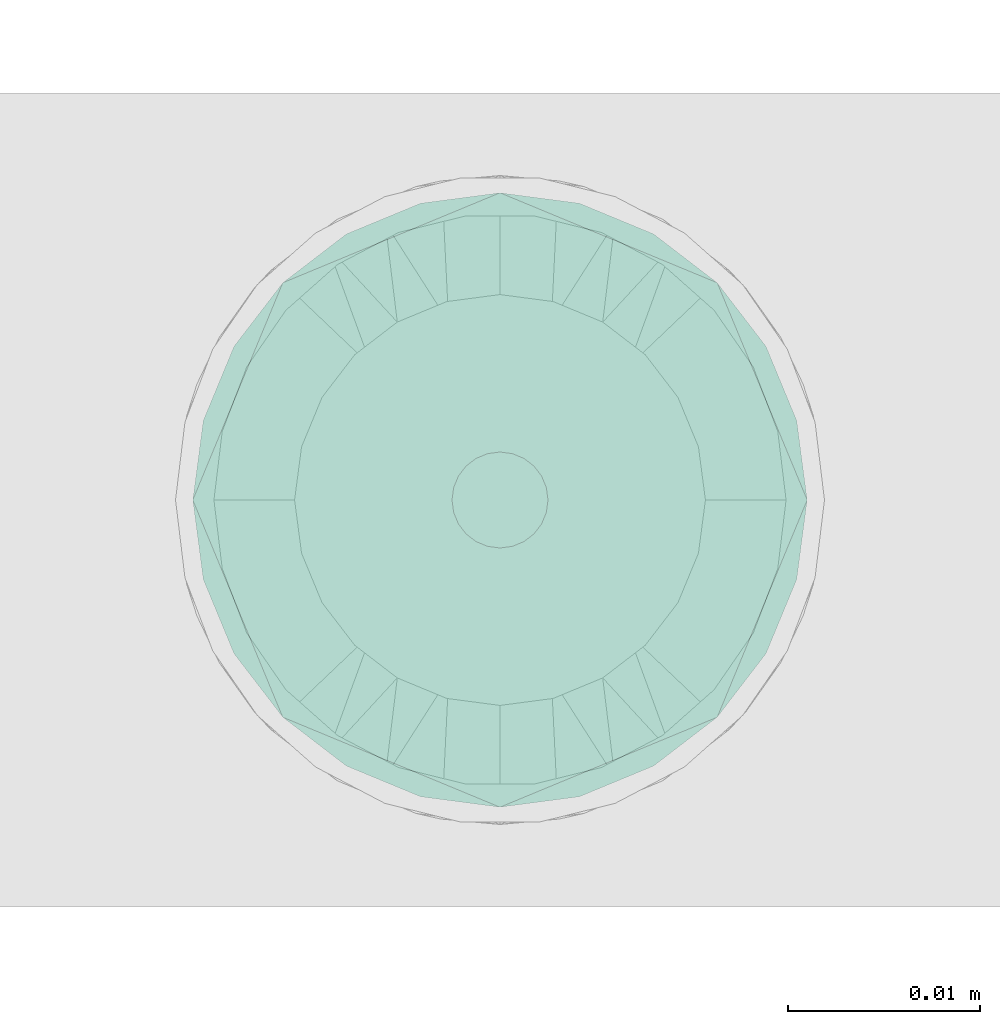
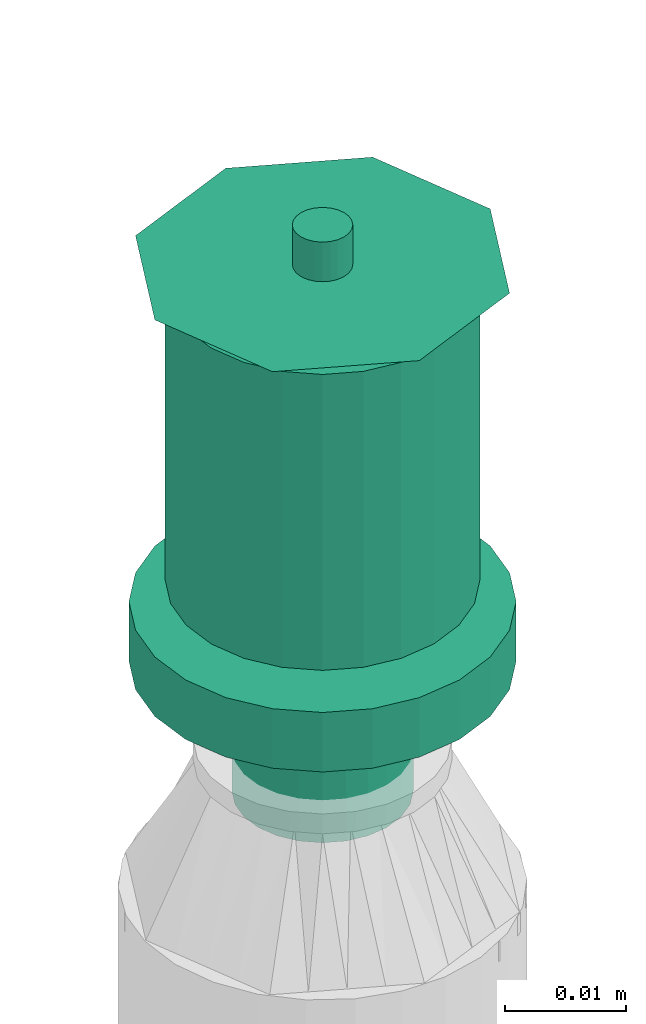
# One storey, part 47 of 94: 1 flow terminal.
"""IFC2X3 building model written with IfcOpenShell, lengths in millimetres."""

from ifc_helpers import new_model, entity, si_unit, converted_unit, derived_unit, direction, frame, origin_with_axes, place, context, subcontext, project, spatial, open_shell, surface_model, source, transform, mapped, type_object, element, save


model = new_model("IFC2X3")

# Units and contexts
model_context = context("Model", 3, precision=0.01, world=frame((0.0, 4.29681676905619e-09, 0.0)), true_north=direction((4.01073788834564e-13, 1.0)))
plan_context = context("Plan", 3, precision=0.01, world=frame((0.0, 4.29681676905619e-09, 0.0)), true_north=direction((4.01073788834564e-13, 1.0)))
body_context = subcontext(model_context, "Body", "Model", "MODEL_VIEW")
ifc_project = project(units=[converted_unit("PLANEANGLEUNIT", "DEGREE", entity("IfcPositiveLengthMeasure", 0.0174532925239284), si_unit("PLANEANGLEUNIT", "RADIAN"), dimensions=[0, 0, 0, 0, 0, 0, 0]), si_unit("AREAUNIT", "SQUARE_METRE"), si_unit("LENGTHUNIT", "METRE", prefix="MILLI"), si_unit("MASSUNIT", "GRAM", prefix="KILO"), si_unit("POWERUNIT", "WATT"), si_unit("PRESSUREUNIT", "PASCAL"), si_unit("FORCEUNIT", "NEWTON", prefix="KILO"), si_unit("ELECTRICCURRENTUNIT", "AMPERE"), si_unit("THERMODYNAMICTEMPERATUREUNIT", "DEGREE_CELSIUS"), si_unit("TIMEUNIT", "SECOND"), si_unit("VOLUMEUNIT", "CUBIC_METRE"), derived_unit("LINEARVELOCITYUNIT", [(si_unit("LENGTHUNIT", "METRE"), 1), (si_unit("TIMEUNIT", "SECOND"), -1)]), derived_unit("VOLUMETRICFLOWRATEUNIT", [(si_unit("VOLUMEUNIT", "CUBIC_METRE"), 1), (si_unit("TIMEUNIT", "SECOND"), -1)]), derived_unit("THERMALTRANSMITTANCEUNIT", [(si_unit("POWERUNIT", "WATT"), 1), (si_unit("THERMODYNAMICTEMPERATUREUNIT", "KELVIN"), -1), (si_unit("AREAUNIT", "SQUARE_METRE"), -1)])], contexts=[model_context, plan_context])

# Site, building, storey
site_placement = place(None, frame((0.0, -4.29681676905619e-09, 0.0), z_axis=(0.0, 0.0, 1.0), x_axis=(1.0, 0.0, 0.0)))
site = spatial("IfcSite", under=ifc_project, at=site_placement, CompositionType="ELEMENT")
building_placement = place(site_placement, frame((0.0, 4.29681676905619e-09, 0.0), z_axis=(0.0, 0.0, 1.0), x_axis=(1.0, 0.0, 0.0)))
building = spatial("IfcBuilding", under=site, at=building_placement, Name="mc-building", CompositionType="ELEMENT")
storey_placement = place(building_placement, frame((0.0, 0.0, 200300.0), z_axis=(0.0, 0.0, 1.0), x_axis=(1.0, 0.0, 0.0)))
storey = spatial("IfcBuildingStorey", under=building, at=storey_placement, Name="Nivå C", CompositionType="ELEMENT", Elevation=200300.0)

# Flow terminal
fire_suppression_terminal_type = type_object("IfcFireSuppressionTerminalType", Name="68DGR-STD-STÅENDE", PredefinedType="NOTDEFINED")
shared_shape = source(origin_with_axes(), body_context, "Body", "SurfaceModel", [
    surface_model("IfcShellBasedSurfaceModel", [(12.55704, 3.36465, 21.14766), (13.0, 0.0, 21.14766), (12.55704, -3.36465, 21.14766), (-12.55704, -3.36465, 21.14766), (-11.25833, -6.5, 21.14766), (-11.25833, -6.5, 51.0), (3.36465, -12.55704, 51.0), (3.36465, -12.55704, 21.14766), (6.5, -11.25833, 21.14766), (9.19239, -9.19239, 21.14766), (11.25833, -6.5, 21.14766), (9.19239, -9.19239, 51.0), (6.5, -11.25833, 51.0), (11.25833, -6.5, 51.0), (12.55704, -3.36465, 51.0), (13.0, 0.0, 51.0), (9.19239, 9.19239, 51.0), (11.25833, 6.5, 21.14766), (9.19239, 9.19239, 21.14766), (11.25833, 6.5, 51.0), (12.55704, 3.36465, 51.0), (6.5, 11.25833, 51.0), (6.5, 11.25833, 21.14766), (3.36465, 12.55704, 21.14766), (3.36465, 12.55704, 51.0), (-11.25833, 6.5, 51.0), (-11.25833, 6.5, 21.14766), (-12.55704, 3.36465, 21.14766), (0.0, -2.5, 51.0), (-2.5, 0.0, 51.0), (0.0, 2.5, 51.0), (2.5, 0.0, 51.0), (11.31371, 11.31371, 53.0), (-11.31371, 11.31371, 53.0), (-11.31371, -11.31371, 53.0), (11.31371, -11.31371, 53.0), (1.62635, 1.62635, 51.0), (2.16506, 1.25, 51.0), (1.99186, 1.15, 51.0), (-1.76777, 1.76777, 51.0), (-1.25, 2.16506, 51.0), (-1.62635, 1.62635, 51.0), (1.99186, -1.15, 51.0), (2.16506, -1.25, 51.0), (1.62635, -1.62635, 51.0), (-1.62635, -1.62635, 51.0), (-1.25, -2.16506, 51.0), (-1.76777, -1.76777, 51.0), (0.0, 7.3, 0.0), (1.94114, 7.24444, 0.0), (1.88938, 7.05126, 0.0), (5.16188, 5.16188, 0.0), (6.49519, 3.75, 0.0), (6.32199, 3.65, 0.0), (-5.3033, 5.3033, 0.0), (-3.75, 6.49519, 0.0), (-5.16188, 5.16188, 0.0), (6.32199, -3.65, 0.0), (6.49519, -3.75, 0.0), (5.16188, -5.16188, 0.0), (1.88938, -7.05126, 0.0), (1.94114, -7.24444, 0.0), (0.0, -7.3, 0.0), (-5.16188, -5.16188, 0.0), (-3.75, -6.49519, 0.0), (-5.3033, -5.3033, 0.0), (-3.36465, 12.55704, 51.0), (-6.5, 11.25833, 51.0), (0.0, 13.0, 51.0), (-9.19239, 9.19239, 51.0), (0.0, -13.0, 51.0), (-9.19239, -9.19239, 51.0), (-12.55704, -3.36465, 51.0), (-6.5, -11.25833, 51.0), (-3.36465, -12.55704, 51.0), (-7.5, 0.0, -0.1), (-7.24444, 1.94114, 0.1), (-7.24444, 1.94114, -0.1), (-6.49519, 3.75, 0.1), (-6.49519, 3.75, -0.1), (-3.75, 6.49519, -0.1), (-5.3033, 5.3033, -0.1), (-3.75, 6.49519, 0.1), (-5.3033, 5.3033, 0.1), (-1.94114, 7.24444, -0.1), (-1.94114, 7.24444, 0.1), (-7.5, 0.0, 0.1), (0.0, 7.5, 0.1), (0.0, 7.5, -0.1), (1.94114, 7.24444, 0.1), (1.94114, 7.24444, -0.1), (3.75, 6.49519, 0.1), (3.75, 6.49519, -0.1), (6.49519, 3.75, -0.1), (5.3033, 5.3033, -0.1), (6.49519, 3.75, 0.1), (5.3033, 5.3033, 0.1), (7.24444, 1.94114, -0.1), (7.24444, 1.94114, 0.1), (7.5, 0.0, 0.1), (7.5, 0.0, -0.1), (-7.24444, -1.94114, 0.1), (7.24444, -1.94114, 0.1), (5.3033, -5.3033, 0.1), (6.49519, -3.75, 0.1), (-6.49519, -3.75, 0.1), (0.0, -7.5, 0.1), (1.94114, -7.24444, 0.1), (3.75, -6.49519, 0.1), (-3.75, -6.49519, 0.1), (-1.94114, -7.24444, 0.1), (-5.3033, -5.3033, 0.1), (0.0, -7.5, -0.1), (-6.49519, -3.75, -0.1), (1.94114, -7.24444, -0.1), (3.75, -6.49519, -0.1), (5.3033, -5.3033, -0.1), (7.24444, -1.94114, -0.1), (6.49519, -3.75, -0.1), (-3.75, -6.49519, -0.1), (-5.3033, -5.3033, -0.1), (-1.94114, -7.24444, -0.1), (-7.24444, -1.94114, -0.1), (16.0, 0.0, 53.0), (0.0, -16.0, 53.0), (-16.0, 0.0, 53.0), (0.0, 16.0, 53.0), (0.64705, 2.41481, 57.0), (0.0, 2.5, 57.0), (1.25, 2.16506, 57.0), (-2.5, 0.0, 57.0), (1.76777, 1.76777, 57.0), (2.41481, 0.64705, 57.0), (2.16506, 1.25, 57.0), (-0.64705, 2.41481, 57.0), (-1.25, 2.16506, 57.0), (-1.76777, 1.76777, 57.0), (-2.16506, 1.25, 57.0), (-2.41481, 0.64705, 57.0), (2.5, 0.0, 57.0), (1.76777, -1.76777, 57.0), (2.16506, -1.25, 57.0), (2.41481, -0.64705, 57.0), (-2.41481, -0.64705, 57.0), (0.64705, -2.41481, 57.0), (1.25, -2.16506, 57.0), (0.0, -2.5, 57.0), (-1.76777, -1.76777, 57.0), (-2.16506, -1.25, 57.0), (-1.25, -2.16506, 57.0), (-0.64705, -2.41481, 57.0), (1.15, -1.99186, 51.0), (1.76777, -1.76777, 51.0), (1.25, -2.16506, 51.0), (0.59528, -2.22163, 51.0), (0.0, -2.3, 51.0), (0.64705, -2.41481, 51.0), (2.22163, -0.59528, 51.0), (2.3, 0.0, 51.0), (2.41481, -0.64705, 51.0), (-0.64705, -2.41481, 51.0), (-0.59528, -2.22163, 51.0), (-1.15, -1.99186, 51.0), (-2.16506, -1.25, 51.0), (-1.99186, -1.15, 51.0), (-2.22163, -0.59528, 51.0), (-2.3, 0.0, 51.0), (-2.41481, -0.64705, 51.0), (2.22163, 0.59528, 51.0), (2.41481, 0.64705, 51.0), (1.76777, 1.76777, 51.0), (1.15, 1.99186, 51.0), (1.25, 2.16506, 51.0), (0.59528, 2.22163, 51.0), (0.0, 2.3, 51.0), (0.64705, 2.41481, 51.0), (-1.99186, 1.15, 51.0), (-2.16506, 1.25, 51.0), (-2.41481, 0.64705, 51.0), (-2.22163, 0.59528, 51.0), (-0.64705, 2.41481, 51.0), (-0.59528, 2.22163, 51.0), (-1.15, 1.99186, 51.0), (-2.22163, 0.59528, 56.8), (-1.99186, 1.15, 56.8), (-1.15, 1.99186, 56.8), (-1.62635, 1.62635, 56.8), (-0.59528, 2.22163, 56.8), (-2.3, 0.0, 56.8), (0.0, 2.3, 56.8), (0.59528, 2.22163, 56.8), (1.15, 1.99186, 56.8), (1.99186, 1.15, 56.8), (1.62635, 1.62635, 56.8), (2.22163, 0.59528, 56.8), (2.3, 0.0, 56.8), (2.22163, -0.59528, 56.8), (1.99186, -1.15, 56.8), (1.62635, -1.62635, 56.8), (1.15, -1.99186, 56.8), (0.59528, -2.22163, 56.8), (0.0, -2.3, 56.8), (-1.99186, -1.15, 56.8), (-2.22163, -0.59528, 56.8), (-1.62635, -1.62635, 56.8), (-0.59528, -2.22163, 56.8), (-1.15, -1.99186, 56.8), (8.0, -13.85641, 13.0), (4.1411, -15.45481, 13.0), (0.0, -16.0, 13.0), (-4.1411, -15.45481, 13.0), (15.45481, -4.1411, 13.0), (13.85641, -8.0, 13.0), (11.31371, -11.31371, 13.0), (-16.0, 0.0, 13.0), (-8.0, -13.85641, 13.0), (-11.31371, -11.31371, 13.0), (-13.85641, -8.0, 13.0), (-15.45481, -4.1411, 13.0), (15.45481, 4.1411, 13.0), (4.1411, 15.45481, 13.0), (13.85641, 8.0, 13.0), (8.0, 13.85641, 13.0), (11.31371, 11.31371, 13.0), (-15.45481, 4.1411, 13.0), (-11.31371, 11.31371, 13.0), (-8.0, 13.85641, 13.0), (-13.85641, 8.0, 13.0), (-4.1411, 15.45481, 13.0), (0.0, 16.0, 13.0), (16.0, 0.0, 13.0), (7.05126, 1.88938, 12.8), (1.88938, 7.05126, 12.8), (3.65, 6.32199, 12.8), (6.32199, 3.65, 12.8), (5.16188, 5.16188, 12.8), (7.3, 0.0, 12.8), (0.0, 7.3, 12.8), (-3.65, 6.32199, 12.8), (-1.88938, 7.05126, 12.8), (-5.16188, 5.16188, 12.8), (-7.05126, 1.88938, 12.8), (-6.32199, 3.65, 12.8), (7.05126, -1.88938, 12.8), (0.0, -7.3, 12.8), (6.32199, -3.65, 12.8), (3.65, -6.32199, 12.8), (5.16188, -5.16188, 12.8), (1.88938, -7.05126, 12.8), (-7.3, 0.0, 12.8), (-6.32199, -3.65, 12.8), (-7.05126, -1.88938, 12.8), (-1.88938, -7.05126, 12.8), (-5.16188, -5.16188, 12.8), (-3.65, -6.32199, 12.8), (-7.05126, 1.88938, 0.0), (-7.3, 0.0, 0.0), (-6.32199, 3.65, 0.0), (-3.65, 6.32199, 0.0), (-1.88938, 7.05126, 0.0), (3.65, 6.32199, 0.0), (7.05126, 1.88938, 0.0), (7.3, 0.0, 0.0), (3.75, 6.49519, 13.0), (1.94114, 7.24444, 13.0), (7.5, 0.0, 13.0), (5.3033, 5.3033, 13.0), (7.24444, 1.94114, 13.0), (6.49519, 3.75, 13.0), (-5.3033, 5.3033, 13.0), (-7.24444, -1.94114, 13.0), (-1.94114, 7.24444, 13.0), (-3.75, 6.49519, 13.0), (0.0, 7.5, 13.0), (-6.49519, 3.75, 13.0), (-7.24444, 1.94114, 13.0), (7.24444, -1.94114, 13.0), (5.3033, -5.3033, 13.0), (6.49519, -3.75, 13.0), (-6.49519, -3.75, 13.0), (0.0, -7.5, 13.0), (1.94114, -7.24444, 13.0), (3.75, -6.49519, 13.0), (-7.5, 0.0, 13.0), (-3.75, -6.49519, 13.0), (-1.94114, -7.24444, 13.0), (-5.3033, -5.3033, 13.0), (3.65, -6.32199, 0.0), (5.3033, -5.3033, 0.0), (3.75, -6.49519, 0.0), (0.0, -7.5, 0.0), (7.05126, -1.88938, 0.0), (7.24444, -1.94114, 0.0), (7.5, 0.0, 0.0), (-1.94114, -7.24444, 0.0), (-1.88938, -7.05126, 0.0), (-3.65, -6.32199, 0.0), (-6.49519, -3.75, 0.0), (-6.32199, -3.65, 0.0), (-7.05126, -1.88938, 0.0), (-7.24444, -1.94114, 0.0), (-7.5, 0.0, 0.0), (7.24444, 1.94114, 0.0), (5.3033, 5.3033, 0.0), (3.75, 6.49519, 0.0), (0.0, 7.5, 0.0), (-6.49519, 3.75, 0.0), (-7.24444, 1.94114, 0.0), (-1.94114, 7.24444, 0.0), (-12.55704, 3.36465, 51.0), (-13.0, 0.0, 51.0), (0.0, -13.0, 21.14766), (-3.36465, -12.55704, 21.14766), (-6.5, -11.25833, 21.14766), (-9.19239, -9.19239, 21.14766), (-13.0, 0.0, 21.14766), (-9.19239, 9.19239, 21.14766), (-6.5, 11.25833, 21.14766), (-3.36465, 12.55704, 21.14766), (0.0, 13.0, 21.14766), (11.31371, 11.31371, 19.0), (8.0, 13.85641, 19.0), (4.1411, 15.45481, 19.0), (-8.0, 13.85641, 19.0), (16.0, 0.0, 19.0), (15.45481, 4.1411, 19.0), (13.85641, 8.0, 19.0), (-4.1411, 15.45481, 19.0), (0.0, 16.0, 19.0), (-11.31371, 11.31371, 19.0), (-13.85641, 8.0, 19.0), (-15.45481, 4.1411, 19.0), (15.45481, -4.1411, 19.0), (11.31371, -11.31371, 19.0), (13.85641, -8.0, 19.0), (-16.0, 0.0, 19.0), (0.0, -16.0, 19.0), (4.1411, -15.45481, 19.0), (8.0, -13.85641, 19.0), (-13.85641, -8.0, 19.0), (-11.31371, -11.31371, 19.0), (-15.45481, -4.1411, 19.0), (-8.0, -13.85641, 19.0), (-4.1411, -15.45481, 19.0)], [open_shell([[[0, 1, 2]], [[3, 4, 5]], [[6, 7, 8]], [[9, 10, 11]], [[9, 11, 12]], [[10, 13, 11]], [[14, 13, 2]], [[1, 15, 14]], [[16, 17, 18]], [[0, 19, 20]], [[20, 15, 1]], [[21, 16, 18]], [[22, 23, 24]], [[16, 19, 17]], [[25, 26, 27]], [[28, 29, 30]], [[30, 31, 28]], [[31, 30, 32]], [[33, 30, 29]], [[29, 28, 34]], [[35, 28, 31]], [[36, 37, 38]], [[39, 40, 41]], [[42, 43, 44]], [[45, 46, 47]], [[48, 49, 50]], [[51, 52, 53]], [[54, 55, 56]], [[57, 58, 59]], [[60, 61, 62]], [[63, 64, 65]], [[66, 67, 68]], [[67, 24, 68]], [[69, 25, 67]], [[15, 20, 14]], [[70, 6, 12]], [[5, 71, 72]], [[73, 74, 71]], [[72, 71, 74]], [[75, 76, 77]], [[77, 78, 79]], [[80, 81, 82]], [[83, 81, 79]], [[84, 80, 85]], [[76, 78, 77]], [[75, 86, 76]], [[80, 82, 85]], [[82, 81, 83]], [[79, 78, 83]], [[84, 85, 87]], [[87, 88, 84]], [[88, 89, 90]], [[90, 91, 92]], [[93, 94, 95]], [[96, 94, 92]], [[97, 93, 98]], [[91, 96, 92]], [[90, 89, 91]], [[97, 98, 99]], [[98, 93, 95]], [[94, 96, 95]], [[97, 99, 100]], [[87, 89, 88]], [[91, 89, 99]], [[96, 91, 98]], [[91, 99, 98]], [[95, 96, 98]], [[89, 83, 101]], [[85, 82, 87]], [[83, 87, 82]], [[78, 76, 83]], [[89, 87, 83]], [[76, 101, 83]], [[102, 99, 89]], [[103, 104, 102]], [[89, 105, 103]], [[103, 106, 107]], [[108, 103, 107]], [[106, 103, 105]], [[89, 101, 105]], [[101, 76, 86]], [[109, 110, 111]], [[105, 111, 110]], [[106, 105, 110]], [[103, 102, 89]], [[112, 113, 114]], [[115, 114, 116]], [[117, 118, 116]], [[113, 116, 114]], [[116, 113, 117]], [[119, 120, 121]], [[113, 121, 120]], [[121, 113, 112]], [[113, 122, 117]], [[75, 77, 122]], [[100, 117, 122]], [[100, 81, 97]], [[93, 97, 90]], [[90, 92, 94]], [[93, 90, 94]], [[90, 97, 81]], [[79, 81, 77]], [[77, 81, 122]], [[84, 88, 80]], [[81, 80, 88]], [[81, 88, 90]], [[100, 122, 81]], [[100, 102, 117]], [[117, 104, 118]], [[115, 116, 108]], [[103, 116, 118]], [[114, 115, 107]], [[102, 104, 117]], [[100, 99, 102]], [[115, 108, 107]], [[108, 116, 103]], [[118, 104, 103]], [[114, 107, 106]], [[106, 112, 114]], [[112, 110, 121]], [[121, 109, 119]], [[113, 120, 105]], [[111, 120, 119]], [[122, 113, 101]], [[109, 111, 119]], [[121, 110, 109]], [[122, 101, 86]], [[101, 113, 105]], [[120, 111, 105]], [[122, 86, 75]], [[106, 110, 112]], [[31, 123, 35]], [[35, 124, 28]], [[124, 34, 28]], [[29, 34, 125]], [[33, 32, 126]], [[33, 125, 124]], [[124, 32, 33]], [[124, 35, 123]], [[124, 125, 34]], [[123, 32, 124]], [[29, 125, 33]], [[33, 126, 30]], [[126, 32, 30]], [[31, 32, 123]], [[127, 128, 129]], [[129, 130, 131]], [[132, 131, 130]], [[133, 131, 132]], [[130, 129, 128]], [[134, 135, 128]], [[136, 128, 135]], [[137, 138, 136]], [[128, 136, 130]], [[138, 130, 136]], [[139, 132, 130]], [[140, 141, 142]], [[143, 140, 139]], [[144, 140, 143]], [[145, 140, 144]], [[146, 144, 147]], [[139, 130, 143]], [[143, 148, 144]], [[149, 150, 147]], [[144, 148, 147]], [[146, 147, 150]], [[140, 142, 139]], [[151, 152, 153]], [[154, 151, 153]], [[155, 154, 156]], [[153, 156, 154]], [[28, 155, 156]], [[44, 152, 151]], [[157, 158, 159]], [[31, 159, 158]], [[43, 157, 159]], [[152, 44, 43]], [[157, 43, 42]], [[160, 161, 28]], [[161, 155, 28]], [[162, 161, 160]], [[160, 46, 162]], [[162, 46, 45]], [[47, 163, 164]], [[165, 164, 163]], [[45, 47, 164]], [[166, 165, 167]], [[163, 167, 165]], [[29, 166, 167]], [[168, 169, 31]], [[38, 169, 168]], [[169, 38, 37]], [[170, 37, 36]], [[171, 172, 170]], [[173, 172, 171]], [[174, 175, 173]], [[172, 173, 175]], [[30, 175, 174]], [[170, 36, 171]], [[39, 176, 177]], [[41, 176, 39]], [[178, 177, 176]], [[178, 179, 29]], [[176, 179, 178]], [[179, 166, 29]], [[180, 30, 181]], [[182, 180, 181]], [[182, 41, 40]], [[180, 182, 40]], [[181, 30, 174]], [[31, 158, 168]], [[29, 138, 178]], [[178, 137, 177]], [[40, 39, 135]], [[136, 39, 177]], [[180, 40, 134]], [[138, 137, 178]], [[29, 130, 138]], [[40, 135, 134]], [[135, 39, 136]], [[177, 137, 136]], [[180, 134, 128]], [[128, 30, 180]], [[30, 127, 175]], [[175, 129, 172]], [[37, 170, 133]], [[131, 170, 172]], [[169, 37, 132]], [[129, 131, 172]], [[175, 127, 129]], [[169, 132, 139]], [[132, 37, 133]], [[170, 131, 133]], [[169, 139, 31]], [[128, 127, 30]], [[179, 183, 166]], [[176, 184, 179]], [[185, 41, 182]], [[176, 41, 186]], [[187, 182, 181]], [[179, 184, 183]], [[183, 188, 166]], [[187, 185, 182]], [[186, 41, 185]], [[186, 184, 176]], [[189, 187, 181]], [[181, 174, 189]], [[173, 190, 174]], [[171, 191, 173]], [[192, 36, 38]], [[171, 36, 193]], [[194, 38, 168]], [[171, 193, 191]], [[191, 190, 173]], [[195, 194, 168]], [[192, 38, 194]], [[192, 193, 36]], [[158, 195, 168]], [[174, 190, 189]], [[31, 142, 159]], [[159, 141, 43]], [[153, 152, 145]], [[140, 152, 43]], [[156, 153, 144]], [[142, 141, 159]], [[31, 139, 142]], [[153, 145, 144]], [[145, 152, 140]], [[43, 141, 140]], [[156, 144, 146]], [[146, 28, 156]], [[28, 150, 160]], [[160, 149, 46]], [[163, 47, 148]], [[147, 47, 46]], [[167, 163, 143]], [[149, 147, 46]], [[160, 150, 149]], [[167, 143, 130]], [[143, 163, 148]], [[47, 147, 148]], [[167, 130, 29]], [[146, 150, 28]], [[190, 191, 193]], [[190, 193, 195]], [[194, 195, 193]], [[194, 193, 192]], [[190, 195, 186]], [[189, 185, 187]], [[185, 189, 186]], [[186, 183, 184]], [[186, 189, 190]], [[186, 196, 183]], [[186, 195, 196]], [[196, 197, 198]], [[196, 198, 199]], [[199, 200, 201]], [[199, 201, 196]], [[196, 201, 202]], [[188, 202, 203]], [[183, 202, 188]], [[204, 205, 206]], [[205, 204, 202]], [[201, 205, 202]], [[202, 183, 196]], [[157, 196, 158]], [[42, 197, 157]], [[199, 44, 151]], [[42, 44, 198]], [[200, 151, 154]], [[157, 197, 196]], [[196, 195, 158]], [[200, 199, 151]], [[198, 44, 199]], [[198, 197, 42]], [[201, 200, 154]], [[154, 155, 201]], [[161, 205, 155]], [[162, 206, 161]], [[202, 45, 164]], [[162, 45, 204]], [[203, 164, 165]], [[162, 204, 206]], [[206, 205, 161]], [[188, 203, 165]], [[202, 164, 203]], [[202, 204, 45]], [[166, 188, 165]], [[155, 205, 201]], [[207, 208, 209]], [[207, 209, 210]], [[211, 212, 213]], [[213, 207, 214]], [[211, 213, 214]], [[215, 216, 210]], [[217, 210, 216]], [[217, 218, 210]], [[218, 207, 210]], [[218, 214, 207]], [[214, 219, 211]], [[220, 219, 214]], [[221, 219, 220]], [[220, 222, 223]], [[221, 220, 223]], [[214, 224, 220]], [[225, 226, 227]], [[224, 227, 226]], [[228, 229, 226]], [[220, 224, 226]], [[226, 229, 220]], [[219, 230, 211]], [[231, 232, 233]], [[234, 233, 235]], [[231, 236, 232]], [[231, 233, 234]], [[232, 236, 237]], [[237, 238, 239]], [[238, 237, 240]], [[240, 241, 242]], [[240, 237, 236]], [[236, 241, 240]], [[236, 243, 241]], [[244, 243, 245]], [[246, 245, 247]], [[246, 248, 244]], [[246, 244, 245]], [[243, 244, 249]], [[249, 250, 251]], [[250, 249, 252]], [[253, 252, 254]], [[252, 253, 250]], [[249, 244, 252]], [[243, 249, 241]], [[255, 241, 256]], [[257, 242, 255]], [[238, 56, 258]], [[257, 56, 240]], [[239, 258, 259]], [[255, 242, 241]], [[241, 249, 256]], [[239, 238, 258]], [[240, 56, 238]], [[240, 242, 257]], [[237, 239, 259]], [[259, 48, 237]], [[50, 232, 48]], [[260, 233, 50]], [[234, 51, 53]], [[260, 51, 235]], [[231, 53, 261]], [[260, 235, 233]], [[233, 232, 50]], [[236, 231, 261]], [[234, 53, 231]], [[234, 235, 51]], [[262, 236, 261]], [[48, 232, 237]], [[263, 264, 265]], [[266, 263, 267]], [[263, 265, 267]], [[268, 266, 267]], [[264, 269, 270]], [[271, 272, 273]], [[269, 273, 272]], [[274, 275, 269]], [[264, 273, 269]], [[275, 270, 269]], [[276, 265, 264]], [[277, 278, 276]], [[264, 279, 277]], [[277, 280, 281]], [[282, 277, 281]], [[280, 277, 279]], [[264, 270, 279]], [[270, 275, 283]], [[284, 285, 286]], [[279, 286, 285]], [[280, 279, 285]], [[277, 276, 264]], [[287, 288, 289]], [[60, 287, 289]], [[290, 62, 61]], [[289, 61, 60]], [[59, 288, 287]], [[291, 262, 292]], [[293, 292, 262]], [[58, 291, 292]], [[288, 59, 58]], [[291, 58, 57]], [[294, 295, 290]], [[296, 295, 294]], [[294, 64, 296]], [[64, 63, 296]], [[295, 62, 290]], [[65, 297, 298]], [[299, 298, 297]], [[63, 65, 298]], [[256, 299, 300]], [[297, 300, 299]], [[301, 256, 300]], [[261, 302, 293]], [[53, 302, 261]], [[302, 53, 52]], [[303, 52, 51]], [[260, 304, 303]], [[50, 304, 260]], [[304, 50, 49]], [[305, 49, 48]], [[303, 51, 260]], [[54, 257, 306]], [[56, 257, 54]], [[307, 306, 257]], [[307, 255, 301]], [[257, 255, 307]], [[255, 256, 301]], [[308, 305, 259]], [[258, 308, 259]], [[55, 258, 56]], [[308, 258, 55]], [[259, 305, 48]], [[293, 262, 261]], [[301, 275, 307]], [[307, 274, 306]], [[55, 54, 272]], [[269, 54, 306]], [[308, 55, 271]], [[275, 274, 307]], [[301, 283, 275]], [[55, 272, 271]], [[272, 54, 269]], [[306, 274, 269]], [[308, 271, 273]], [[273, 305, 308]], [[305, 264, 49]], [[49, 263, 304]], [[52, 303, 268]], [[266, 303, 304]], [[302, 52, 267]], [[263, 266, 304]], [[49, 264, 263]], [[302, 267, 265]], [[267, 52, 268]], [[303, 266, 268]], [[302, 265, 293]], [[273, 264, 305]], [[293, 276, 292]], [[292, 278, 58]], [[289, 288, 282]], [[277, 288, 58]], [[61, 289, 281]], [[276, 278, 292]], [[293, 265, 276]], [[289, 282, 281]], [[282, 288, 277]], [[58, 278, 277]], [[61, 281, 280]], [[280, 290, 61]], [[290, 285, 294]], [[294, 284, 64]], [[297, 65, 279]], [[286, 65, 64]], [[300, 297, 270]], [[284, 286, 64]], [[294, 285, 284]], [[300, 270, 283]], [[270, 297, 279]], [[65, 286, 279]], [[300, 283, 301]], [[280, 285, 290]], [[291, 243, 262]], [[57, 245, 291]], [[246, 59, 287]], [[57, 59, 247]], [[248, 287, 60]], [[291, 245, 243]], [[243, 236, 262]], [[248, 246, 287]], [[247, 59, 246]], [[247, 245, 57]], [[244, 248, 60]], [[60, 62, 244]], [[295, 252, 62]], [[296, 254, 295]], [[250, 63, 298]], [[296, 63, 253]], [[251, 298, 299]], [[296, 253, 254]], [[254, 252, 295]], [[249, 251, 299]], [[250, 298, 251]], [[250, 253, 63]], [[256, 249, 299]], [[62, 252, 244]], [[16, 21, 24]], [[20, 16, 24]], [[24, 67, 72]], [[19, 16, 20]], [[24, 72, 20]], [[25, 72, 67]], [[309, 310, 25]], [[11, 13, 14]], [[72, 11, 20]], [[74, 12, 11]], [[12, 74, 70]], [[72, 25, 310]], [[72, 74, 11]], [[11, 14, 20]], [[8, 7, 311]], [[8, 311, 312]], [[2, 10, 9]], [[3, 9, 8]], [[3, 26, 9]], [[313, 314, 312]], [[3, 312, 314]], [[4, 3, 314]], [[3, 8, 312]], [[315, 26, 3]], [[2, 9, 26]], [[0, 2, 26]], [[17, 0, 18]], [[23, 22, 18]], [[0, 23, 18]], [[23, 0, 26]], [[316, 317, 26]], [[26, 315, 27]], [[318, 319, 317]], [[23, 26, 317]], [[23, 317, 319]], [[316, 26, 25]], [[318, 317, 67]], [[69, 317, 316]], [[319, 318, 66]], [[310, 309, 315]], [[27, 315, 309]], [[25, 27, 309]], [[25, 69, 316]], [[317, 69, 67]], [[67, 66, 318]], [[66, 68, 319]], [[22, 21, 18]], [[0, 17, 19]], [[1, 0, 20]], [[68, 24, 23]], [[24, 21, 22]], [[319, 68, 23]], [[1, 14, 2]], [[2, 13, 10]], [[6, 311, 7]], [[6, 8, 12]], [[12, 8, 9]], [[6, 70, 311]], [[313, 312, 74]], [[313, 73, 314]], [[71, 4, 314]], [[315, 3, 72]], [[70, 74, 312]], [[74, 73, 313]], [[73, 71, 314]], [[71, 5, 4]], [[3, 5, 72]], [[72, 310, 315]], [[311, 70, 312]], [[320, 321, 322]], [[320, 322, 323]], [[320, 324, 325]], [[326, 320, 325]], [[324, 320, 323]], [[327, 323, 328]], [[323, 322, 328]], [[329, 330, 323]], [[331, 323, 330]], [[323, 331, 324]], [[331, 332, 324]], [[333, 334, 332]], [[335, 333, 331]], [[336, 337, 338]], [[335, 338, 333]], [[338, 335, 336]], [[339, 340, 341]], [[335, 341, 340]], [[342, 343, 340]], [[335, 340, 343]], [[343, 336, 335]], [[332, 331, 333]], [[214, 331, 224]], [[224, 330, 227]], [[226, 225, 323]], [[329, 225, 227]], [[228, 226, 327]], [[331, 330, 224]], [[214, 335, 331]], [[226, 323, 327]], [[323, 225, 329]], [[227, 330, 329]], [[228, 327, 328]], [[328, 229, 228]], [[229, 322, 220]], [[220, 321, 222]], [[221, 223, 326]], [[320, 223, 222]], [[219, 221, 325]], [[321, 320, 222]], [[220, 322, 321]], [[219, 325, 324]], [[325, 221, 326]], [[223, 320, 326]], [[219, 324, 230]], [[328, 322, 229]], [[230, 332, 211]], [[211, 334, 212]], [[207, 213, 338]], [[333, 213, 212]], [[208, 207, 337]], [[332, 334, 211]], [[230, 324, 332]], [[207, 338, 337]], [[338, 213, 333]], [[212, 334, 333]], [[208, 337, 336]], [[336, 209, 208]], [[209, 343, 210]], [[210, 342, 215]], [[217, 216, 339]], [[340, 216, 215]], [[218, 217, 341]], [[342, 340, 215]], [[210, 343, 342]], [[218, 341, 335]], [[341, 217, 339]], [[216, 340, 339]], [[218, 335, 214]], [[336, 343, 209]]])]),
])
flow_terminal_placement = place(storey_placement, frame((518497.26879, 412998.99053, 2972.0), z_axis=(0.0, 0.0, 1.0), x_axis=(-1.0, 0.0, 0.0)))
element("IfcFlowTerminal", 1, at=flow_terminal_placement, inside=storey, type_object=fire_suppression_terminal_type, Name="68DGR-STD-STÅENDE", context=body_context, shape_type="MappedRepresentation", body=[
    mapped(shared_shape, transform((0.0, 0.0, 0.0), scale=1.0)),
])

save(model, "model.ifc")
